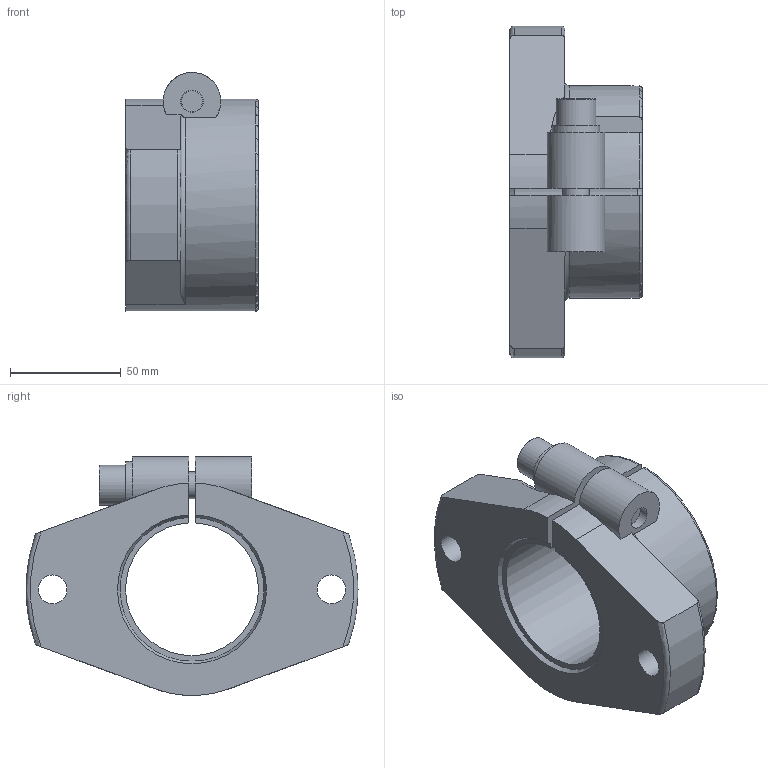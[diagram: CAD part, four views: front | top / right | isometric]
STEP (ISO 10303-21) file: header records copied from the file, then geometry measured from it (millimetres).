
FILE_DESCRIPTION((''),'2;1');
FILE_NAME('D:\製品 (図面)\カタログ用3D\シャフトブロック関連\STEP形式\SF\SF60.stp','2010-06-01T16:27:31',('Tsuchiya'),(''),'Autodesk Inventor 10','Autodesk Inventor 10','');
FILE_SCHEMA(('AUTOMOTIVE_DESIGN { 1 0 10303 214 1 1 1 1 }'));
Length unit declared in the file: millimetre
Products named in the file (1): SF60
Bounding box: 60 x 150 x 107.98 mm (x, y, z)
Volume: 364017.4 mm3; surface area: 56089.2 mm2
Topology: 1 solids, 1 shells, 55 faces, 149 edges, 100 vertices
Faces by surface type: plane 25, cylinder 15, torus 7, cone 4, bspline 4
Full cylindrical faces by diameter (mm): 12 x1, 13 x2, 18 x1, 21.5 x1
Entity records: 2061 total; most frequent: CARTESIAN_POINT 762, ORIENTED_EDGE 264, DIRECTION 253, EDGE_CURVE 132, AXIS2_PLACEMENT_3D 101, VERTEX_POINT 93, EDGE_LOOP 75, FACE_OUTER_BOUND 55
